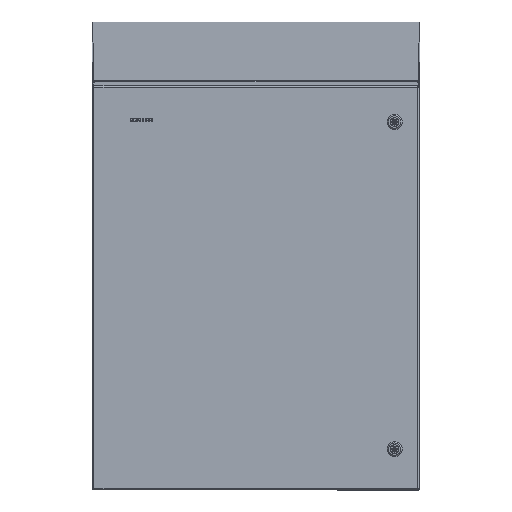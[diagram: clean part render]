
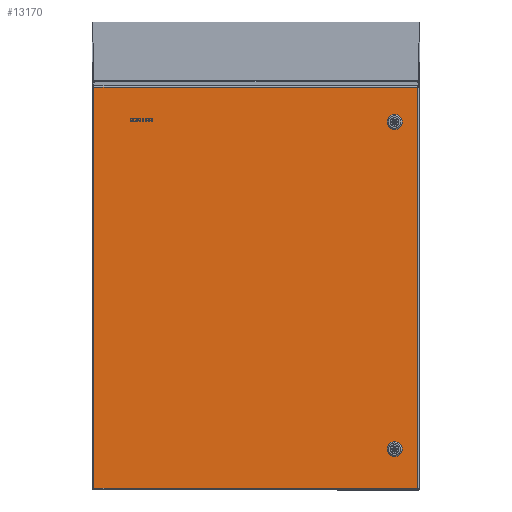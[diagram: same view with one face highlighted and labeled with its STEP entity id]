
A CAD part, front view. The second image highlights one B-rep face of the part: STEP entity #13170.
In plain terms, the highlighted planar face has unit normal (0, -1, 0).
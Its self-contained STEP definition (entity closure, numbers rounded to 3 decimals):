
#3083=ORIENTED_EDGE('',*,*,#6010,.F.);
#3084=ORIENTED_EDGE('',*,*,#6011,.F.);
#3085=ORIENTED_EDGE('',*,*,#6012,.F.);
#3086=ORIENTED_EDGE('',*,*,#6013,.F.);
#3087=ORIENTED_EDGE('',*,*,#6014,.F.);
#3088=ORIENTED_EDGE('',*,*,#6015,.F.);
#3089=ORIENTED_EDGE('',*,*,#6016,.F.);
#3090=ORIENTED_EDGE('',*,*,#6017,.F.);
#3091=ORIENTED_EDGE('',*,*,#6018,.F.);
#3092=ORIENTED_EDGE('',*,*,#6019,.F.);
#3093=ORIENTED_EDGE('',*,*,#6020,.F.);
#3094=ORIENTED_EDGE('',*,*,#6021,.F.);
#3095=ORIENTED_EDGE('',*,*,#6022,.F.);
#3096=ORIENTED_EDGE('',*,*,#6023,.F.);
#3097=ORIENTED_EDGE('',*,*,#6024,.F.);
#3098=ORIENTED_EDGE('',*,*,#6025,.F.);
#3099=ORIENTED_EDGE('',*,*,#6026,.T.);
#3100=ORIENTED_EDGE('',*,*,#6027,.T.);
#3101=ORIENTED_EDGE('',*,*,#6028,.T.);
#3102=ORIENTED_EDGE('',*,*,#6029,.T.);
#6010=EDGE_CURVE('',#7626,#7627,#8715,.T.);
#6011=EDGE_CURVE('',#7628,#7626,#8716,.T.);
#6012=EDGE_CURVE('',#7629,#7628,#8717,.T.);
#6013=EDGE_CURVE('',#7630,#7629,#8718,.T.);
#6014=EDGE_CURVE('',#7631,#7630,#8719,.T.);
#6015=EDGE_CURVE('',#7632,#7631,#8720,.T.);
#6016=EDGE_CURVE('',#7633,#7632,#8721,.T.);
#6017=EDGE_CURVE('',#7627,#7633,#8722,.T.);
#6018=EDGE_CURVE('',#7634,#7635,#8723,.T.);
#6019=EDGE_CURVE('',#7636,#7634,#8724,.T.);
#6020=EDGE_CURVE('',#7637,#7636,#8725,.T.);
#6021=EDGE_CURVE('',#7638,#7637,#8726,.T.);
#6022=EDGE_CURVE('',#7639,#7638,#8727,.T.);
#6023=EDGE_CURVE('',#7640,#7639,#8728,.T.);
#6024=EDGE_CURVE('',#7641,#7640,#8729,.T.);
#6025=EDGE_CURVE('',#7635,#7641,#8730,.T.);
#6026=EDGE_CURVE('',#7606,#7602,#8731,.T.);
#6027=EDGE_CURVE('',#7602,#7642,#8732,.T.);
#6028=EDGE_CURVE('',#7642,#7643,#8733,.T.);
#6029=EDGE_CURVE('',#7643,#7606,#8734,.T.);
#7602=VERTEX_POINT('',#21965);
#7606=VERTEX_POINT('',#21974);
#7626=VERTEX_POINT('',#22019);
#7627=VERTEX_POINT('',#22020);
#7628=VERTEX_POINT('',#22022);
#7629=VERTEX_POINT('',#22024);
#7630=VERTEX_POINT('',#22026);
#7631=VERTEX_POINT('',#22028);
#7632=VERTEX_POINT('',#22030);
#7633=VERTEX_POINT('',#22032);
#7634=VERTEX_POINT('',#22035);
#7635=VERTEX_POINT('',#22036);
#7636=VERTEX_POINT('',#22038);
#7637=VERTEX_POINT('',#22040);
#7638=VERTEX_POINT('',#22042);
#7639=VERTEX_POINT('',#22044);
#7640=VERTEX_POINT('',#22046);
#7641=VERTEX_POINT('',#22048);
#7642=VERTEX_POINT('',#22052);
#7643=VERTEX_POINT('',#22054);
#8715=LINE('',#22018,#9841);
#8716=LINE('',#22021,#9842);
#8717=LINE('',#22023,#9843);
#8718=LINE('',#22025,#9844);
#8719=LINE('',#22027,#9845);
#8720=LINE('',#22029,#9846);
#8721=LINE('',#22031,#9847);
#8722=LINE('',#22033,#9848);
#8723=LINE('',#22034,#9849);
#8724=LINE('',#22037,#9850);
#8725=LINE('',#22039,#9851);
#8726=LINE('',#22041,#9852);
#8727=LINE('',#22043,#9853);
#8728=LINE('',#22045,#9854);
#8729=LINE('',#22047,#9855);
#8730=LINE('',#22049,#9856);
#8731=LINE('',#22050,#9857);
#8732=LINE('',#22051,#9858);
#8733=LINE('',#22053,#9859);
#8734=LINE('',#22055,#9860);
#9841=VECTOR('',#16007,1000.);
#9842=VECTOR('',#16008,1000.);
#9843=VECTOR('',#16009,1000.);
#9844=VECTOR('',#16010,1000.);
#9845=VECTOR('',#16011,1000.);
#9846=VECTOR('',#16012,1000.);
#9847=VECTOR('',#16013,1000.);
#9848=VECTOR('',#16014,1000.);
#9849=VECTOR('',#16015,1000.);
#9850=VECTOR('',#16016,1000.);
#9851=VECTOR('',#16017,1000.);
#9852=VECTOR('',#16018,1000.);
#9853=VECTOR('',#16019,1000.);
#9854=VECTOR('',#16020,1000.);
#9855=VECTOR('',#16021,1000.);
#9856=VECTOR('',#16022,1000.);
#9857=VECTOR('',#16023,1000.);
#9858=VECTOR('',#16024,1000.);
#9859=VECTOR('',#16025,1000.);
#9860=VECTOR('',#16026,1000.);
#10946=EDGE_LOOP('',(#3083,#3084,#3085,#3086,#3087,#3088,#3089,#3090));
#10947=EDGE_LOOP('',(#3091,#3092,#3093,#3094,#3095,#3096,#3097,#3098));
#10948=EDGE_LOOP('',(#3099,#3100,#3101,#3102));
#11875=FACE_BOUND('',#10946,.T.);
#11876=FACE_BOUND('',#10947,.T.);
#11877=FACE_BOUND('',#10948,.T.);
#12529=PLANE('',#14199);
#13170=ADVANCED_FACE('',(#11875,#11876,#11877),#12529,.T.);
#14199=AXIS2_PLACEMENT_3D('',#22017,#16005,#16006);
#16005=DIRECTION('',(0.,-1.,0.));
#16006=DIRECTION('',(0.,0.,-1.));
#16007=DIRECTION('',(-1.,0.,0.));
#16008=DIRECTION('',(-0.707,0.,0.707));
#16009=DIRECTION('',(0.,0.,1.));
#16010=DIRECTION('',(0.707,0.,0.707));
#16011=DIRECTION('',(1.,0.,0.));
#16012=DIRECTION('',(0.707,0.,-0.707));
#16013=DIRECTION('',(0.,0.,-1.));
#16014=DIRECTION('',(-0.707,0.,-0.707));
#16015=DIRECTION('',(-1.,0.,0.));
#16016=DIRECTION('',(-0.707,0.,0.707));
#16017=DIRECTION('',(0.,0.,1.));
#16018=DIRECTION('',(0.707,0.,0.707));
#16019=DIRECTION('',(1.,0.,0.));
#16020=DIRECTION('',(0.707,0.,-0.707));
#16021=DIRECTION('',(0.,0.,-1.));
#16022=DIRECTION('',(-0.707,0.,-0.707));
#16023=DIRECTION('',(0.,0.,-1.));
#16024=DIRECTION('',(1.,0.,0.));
#16025=DIRECTION('',(0.,0.,1.));
#16026=DIRECTION('',(-1.,0.,0.));
#21965=CARTESIAN_POINT('',(-301.663,0.,-373.812));
#21974=CARTESIAN_POINT('',(-301.663,0.,373.812));
#22017=CARTESIAN_POINT('',(-301.663,0.,-373.812));
#22018=CARTESIAN_POINT('',(264.655,0.,318.91));
#22019=CARTESIAN_POINT('',(264.655,0.,318.91));
#22020=CARTESIAN_POINT('',(252.921,0.,318.91));
#22021=CARTESIAN_POINT('',(264.655,0.,318.91));
#22022=CARTESIAN_POINT('',(268.834,0.,314.731));
#22023=CARTESIAN_POINT('',(268.834,0.,302.997));
#22024=CARTESIAN_POINT('',(268.834,0.,302.997));
#22025=CARTESIAN_POINT('',(268.834,0.,302.997));
#22026=CARTESIAN_POINT('',(264.655,0.,298.818));
#22027=CARTESIAN_POINT('',(252.921,0.,298.818));
#22028=CARTESIAN_POINT('',(252.921,0.,298.818));
#22029=CARTESIAN_POINT('',(248.742,0.,302.997));
#22030=CARTESIAN_POINT('',(248.742,0.,302.997));
#22031=CARTESIAN_POINT('',(248.742,0.,314.731));
#22032=CARTESIAN_POINT('',(248.742,0.,314.731));
#22033=CARTESIAN_POINT('',(252.921,0.,318.91));
#22034=CARTESIAN_POINT('',(264.655,0.,-290.69));
#22035=CARTESIAN_POINT('',(264.655,0.,-290.69));
#22036=CARTESIAN_POINT('',(252.921,0.,-290.69));
#22037=CARTESIAN_POINT('',(264.655,0.,-290.69));
#22038=CARTESIAN_POINT('',(268.834,0.,-294.869));
#22039=CARTESIAN_POINT('',(268.834,0.,-306.603));
#22040=CARTESIAN_POINT('',(268.834,0.,-306.603));
#22041=CARTESIAN_POINT('',(268.834,0.,-306.603));
#22042=CARTESIAN_POINT('',(264.655,0.,-310.782));
#22043=CARTESIAN_POINT('',(252.921,0.,-310.782));
#22044=CARTESIAN_POINT('',(252.921,0.,-310.782));
#22045=CARTESIAN_POINT('',(248.742,0.,-306.603));
#22046=CARTESIAN_POINT('',(248.742,0.,-306.603));
#22047=CARTESIAN_POINT('',(248.742,0.,-294.869));
#22048=CARTESIAN_POINT('',(248.742,0.,-294.869));
#22049=CARTESIAN_POINT('',(252.921,0.,-290.69));
#22050=CARTESIAN_POINT('',(-301.663,0.,373.812));
#22051=CARTESIAN_POINT('',(-301.663,0.,-373.812));
#22052=CARTESIAN_POINT('',(301.663,0.,-373.812));
#22053=CARTESIAN_POINT('',(301.663,0.,-373.812));
#22054=CARTESIAN_POINT('',(301.663,0.,373.812));
#22055=CARTESIAN_POINT('',(301.663,0.,373.812));
